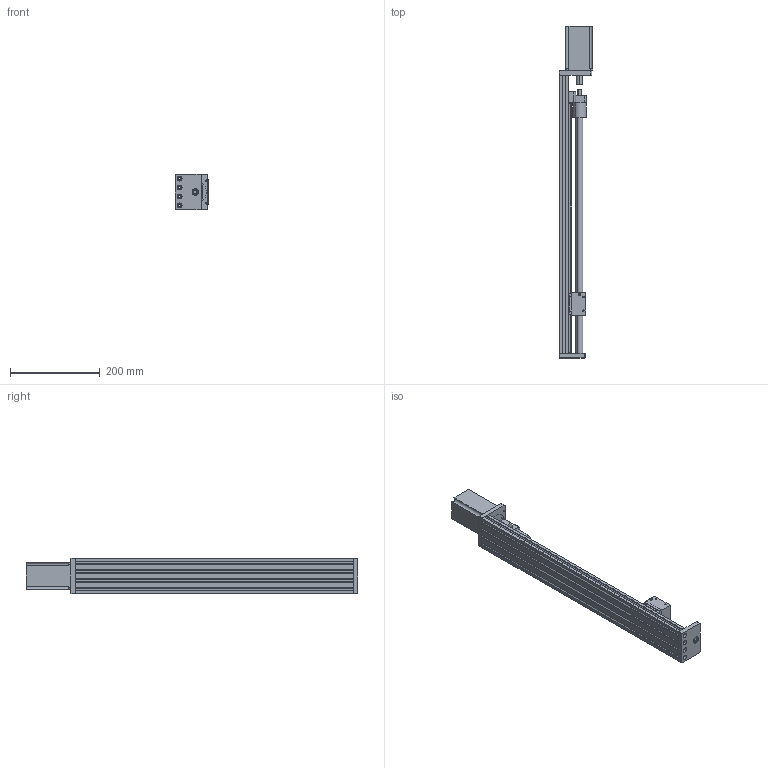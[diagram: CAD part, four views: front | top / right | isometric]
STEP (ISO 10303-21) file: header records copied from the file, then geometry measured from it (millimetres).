
FILE_DESCRIPTION (( 'STEP AP214' ), '1' );
FILE_NAME ('20-80简易模组.STEP', '2019-11-08T02:19:34', ( '微软用户' ), ( '微软中国' ), 'SwSTEP 2.0', 'SolidWorks 2016', '' );
FILE_SCHEMA (( 'AUTOMOTIVE_DESIGN' ));
Length unit declared in the file: millimetre
Products named in the file (13): 20-80潠眢耀郪; 耜啣; 1605眻芠蹟譫; 萇儂啣; 嘐隅釱; 蹟譫釱; 佪裝; deep groove ball bearings gb_Rolling bearings 608 GB 276-94; MGN12H絳寢 (1); MSN12H賑輸; 60萇儂; 錨璃2; 2080臏倰第赻羲耀
Assembly tree (15 placements, depth 2):
  20-80潠眢耀郪
    耜啣
    1605眻芠蹟譫
    萇儂啣
    嘐隅釱
    蹟譫釱
    佪裝
    deep groove ball bearings gb_Rolling bearings 608 GB 276-94  x2
    MGN12H絳寢 (1)  x2
    MSN12H賑輸  x2
    60萇儂
    錨璃2
    2080臏倰第赻羲耀
Bounding box: 75 x 740 x 80 mm (x, y, z)
Volume: 1212759.7 mm3; surface area: 590252.6 mm2
Topology: 15 solids, 15 shells, 948 faces, 2810 edges, 1856 vertices
Faces by surface type: cylinder 431, plane 357, torus 88, sphere 48, cone 24
Entity records: 25164 total; most frequent: CARTESIAN_POINT 5554, DIRECTION 3930, ORIENTED_EDGE 3872, EDGE_CURVE 1936, AXIS2_PLACEMENT_3D 1460, VERTEX_POINT 1288, LINE 1010, VECTOR 1010
